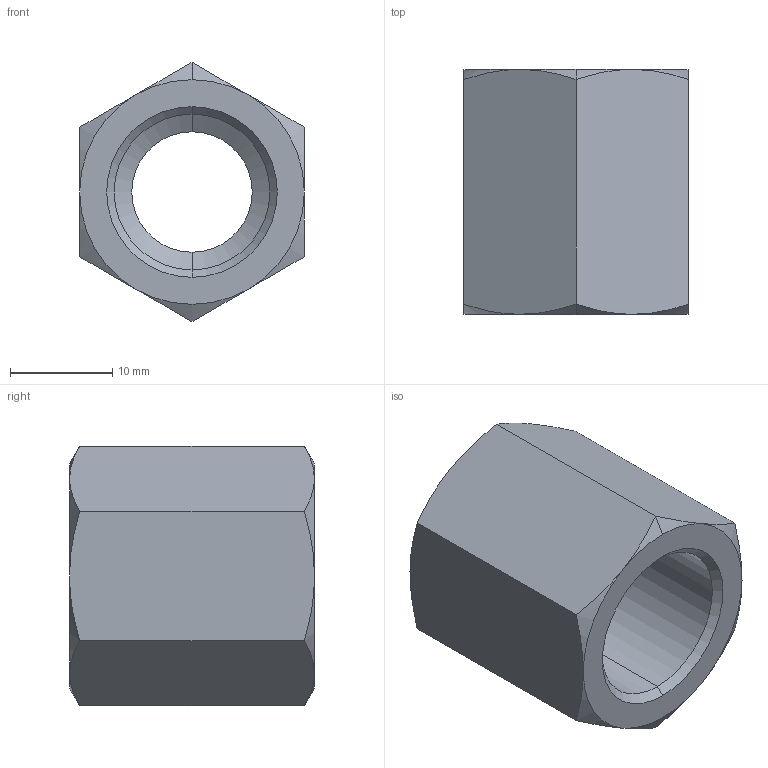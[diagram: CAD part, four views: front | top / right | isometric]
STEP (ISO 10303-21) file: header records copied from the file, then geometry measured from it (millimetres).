
FILE_DESCRIPTION (( 'STEP AP203' ), '1' );
FILE_NAME ('BXH02 B3B2 00.STEP', '2018-10-27T12:04:25', ( '' ), ( '' ), 'SwSTEP 2.0', 'SolidWorks 2013', '' );
FILE_SCHEMA (( 'CONFIG_CONTROL_DESIGN' ));
Length unit declared in the file: millimetre
Products named in the file (1): BXH02 B3B2 00
Bounding box: 22 x 24 x 25.4 mm (x, y, z)
Volume: 6473.4 mm3; surface area: 3368.4 mm2
Topology: 1 solids, 1 shells, 32 faces, 68 edges, 38 vertices
Faces by surface type: cone 20, plane 8, cylinder 4
Entity records: 1027 total; most frequent: CARTESIAN_POINT 291, ORIENTED_EDGE 136, DIRECTION 136, EDGE_CURVE 68, AXIS2_PLACEMENT_3D 59, VERTEX_POINT 38, EDGE_LOOP 34, FACE_OUTER_BOUND 32
